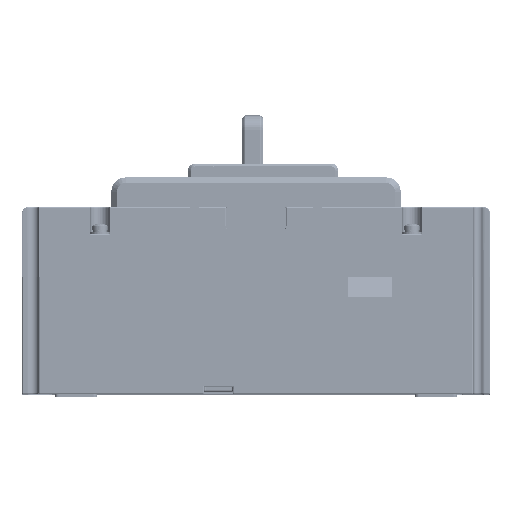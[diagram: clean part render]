
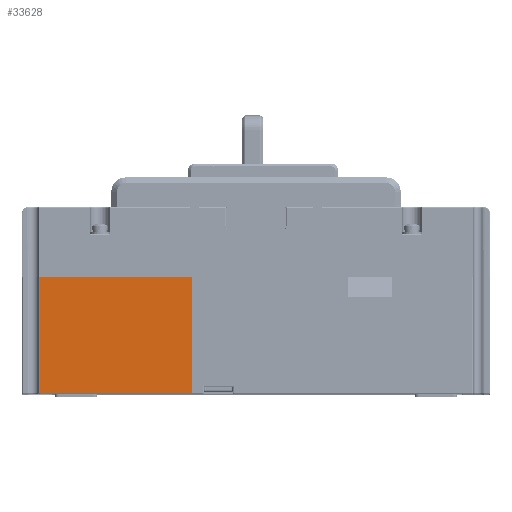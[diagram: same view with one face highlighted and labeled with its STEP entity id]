
A CAD part, top view. The second image highlights one B-rep face of the part: STEP entity #33628.
In plain terms, the highlighted planar face has unit normal (0, 0, 1).
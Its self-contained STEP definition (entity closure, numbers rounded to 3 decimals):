
#2234=DIRECTION('',(1.,0.,0.));
#2235=VECTOR('',#2234,53.651);
#2236=CARTESIAN_POINT('',(-76.151,-32.3,88.5));
#2237=LINE('',#2236,#2235);
#2257=DIRECTION('',(0.,-1.,0.));
#2258=VECTOR('',#2257,41.);
#2259=CARTESIAN_POINT('',(-76.151,8.7,88.5));
#2260=LINE('',#2259,#2258);
#9473=DIRECTION('',(1.,0.,0.));
#9474=VECTOR('',#9473,53.651);
#9475=CARTESIAN_POINT('',(-76.151,8.7,88.5));
#9476=LINE('',#9475,#9474);
#9477=DIRECTION('',(0.,-1.,0.));
#9478=VECTOR('',#9477,41.);
#9479=CARTESIAN_POINT('',(-22.5,8.7,88.5));
#9480=LINE('',#9479,#9478);
#17378=CARTESIAN_POINT('',(-22.5,-32.3,88.5));
#17379=VERTEX_POINT('',#17378);
#17380=CARTESIAN_POINT('',(-22.5,8.7,88.5));
#17381=VERTEX_POINT('',#17380);
#17382=CARTESIAN_POINT('',(-76.151,-32.3,88.5));
#17383=VERTEX_POINT('',#17382);
#17388=CARTESIAN_POINT('',(-76.151,8.7,88.5));
#17389=VERTEX_POINT('',#17388);
#33617=CARTESIAN_POINT('',(0.,0.,88.5));
#33618=DIRECTION('',(0.,0.,1.));
#33619=DIRECTION('',(1.,0.,0.));
#33620=AXIS2_PLACEMENT_3D('',#33617,#33618,#33619);
#33621=PLANE('',#33620);
#33622=ORIENTED_EDGE('',*,*,#23707,.F.);
#33623=ORIENTED_EDGE('',*,*,#23735,.F.);
#33624=ORIENTED_EDGE('',*,*,#24824,.T.);
#33625=ORIENTED_EDGE('',*,*,#23691,.T.);
#33626=EDGE_LOOP('',(#33622,#33623,#33624,#33625));
#33627=FACE_OUTER_BOUND('',#33626,.F.);
#33628=ADVANCED_FACE('',(#33627),#33621,.T.);
#23691=EDGE_CURVE('',#17381,#17379,#9480,.T.);
#23707=EDGE_CURVE('',#17383,#17379,#2237,.T.);
#23735=EDGE_CURVE('',#17389,#17383,#2260,.T.);
#24824=EDGE_CURVE('',#17389,#17381,#9476,.T.);
